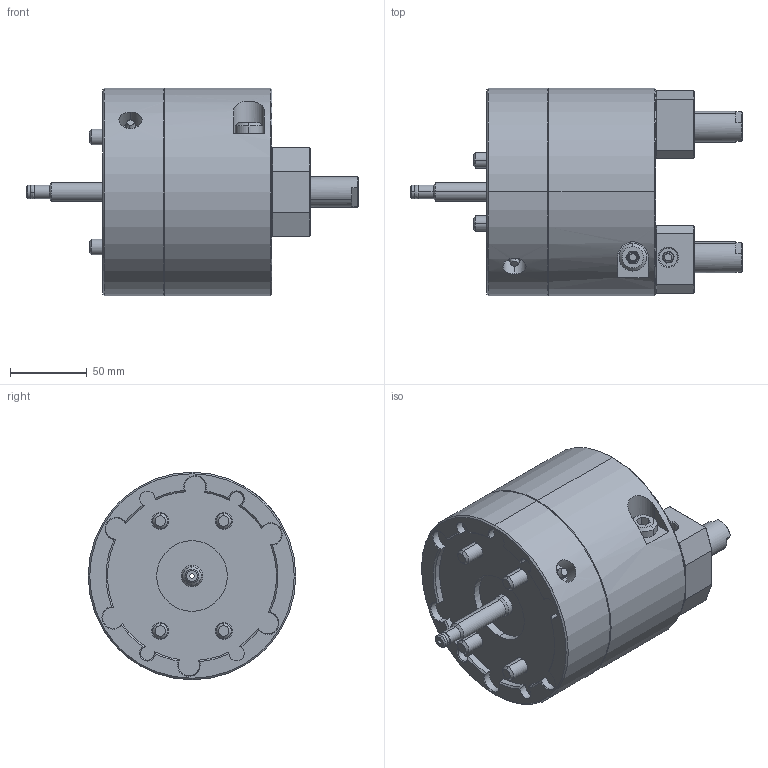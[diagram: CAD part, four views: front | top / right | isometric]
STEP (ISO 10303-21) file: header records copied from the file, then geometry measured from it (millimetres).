
FILE_DESCRIPTION (( 'STEP AP214' ), '1' );
FILE_NAME ('FGT05_UC.STEP', '2019-12-02T04:07:04', ( '' ), ( '' ), 'SwSTEP 2.0', 'SolidWorks 2017', '' );
FILE_SCHEMA (( 'AUTOMOTIVE_DESIGN' ));
Length unit declared in the file: millimetre
Products named in the file (2): 結合; FGT05_UC
Assembly tree (1 placements, depth 2):
  FGT05_UC
    結合
Bounding box: 216 x 135 x 135 mm (x, y, z)
Volume: 1625165.9 mm3; surface area: 131871.7 mm2
Topology: 3 solids, 19 shells, 1331 faces, 3197 edges, 1947 vertices
Faces by surface type: plane 625, cone 295, cylinder 254, bspline 101, torus 56
Entity records: 44815 total; most frequent: CARTESIAN_POINT 14123, ORIENTED_EDGE 6306, DIRECTION 6210, EDGE_CURVE 3153, AXIS2_PLACEMENT_3D 2261, VERTEX_POINT 1947, LINE 1688, VECTOR 1688
